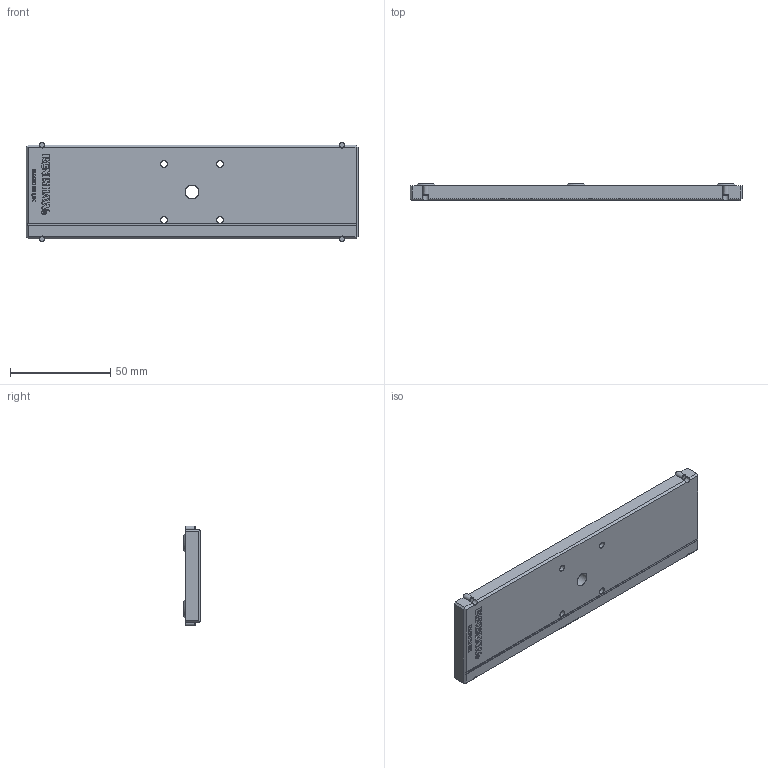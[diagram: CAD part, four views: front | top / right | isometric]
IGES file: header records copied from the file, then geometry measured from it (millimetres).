
Global section: file name: E:\Lightweight models\A-8003-0442  Flatness Kit\LA-8003-0256-A.igs; native system: NX V7.5; preprocessor: SIEMENS PLM Software NX 7.5; date: 20150331.111514; units: millimetre
Bounding box: 166 x 8.7 x 50 mm (x, y, z)
Surface area: 21903.4 mm2 (no closed solid volume)
Topology: 0 solids, 0 shells, 365 faces, 2261 edges, 2236 vertices
Faces by surface type: bspline 365
